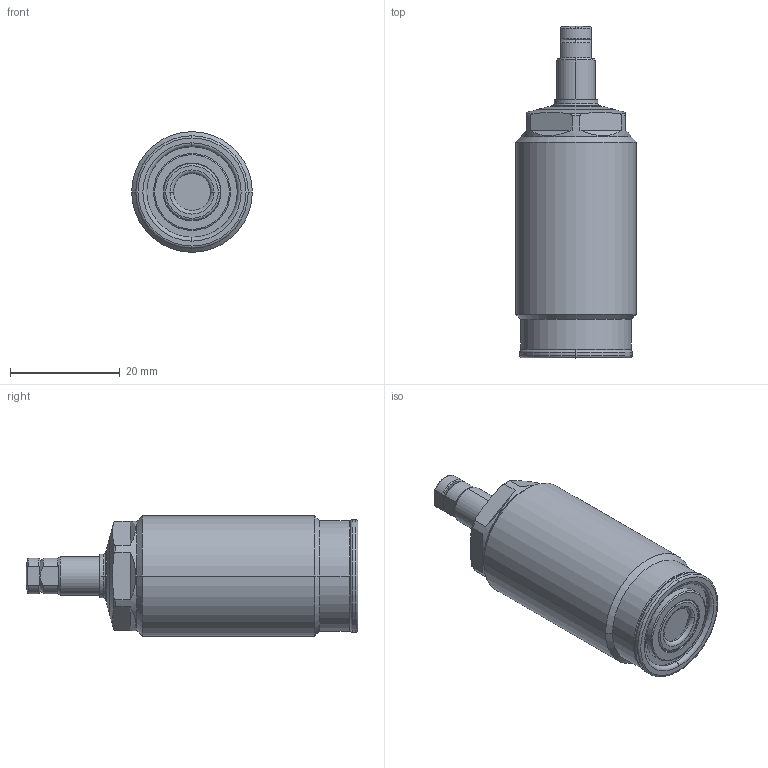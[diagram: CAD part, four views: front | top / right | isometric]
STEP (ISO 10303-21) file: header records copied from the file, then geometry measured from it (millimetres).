
FILE_DESCRIPTION(/* description */ (''),/* implementation_level */ '2;1');
FILE_NAME(/* name */ 'TNE22.stp',/* time_stamp */ '2022-11-17T13:37:34+08:00',/* author */ (''),/* organization */ (''),/* preprocessor_version */ 'ST-DEVELOPER v16.7',/* originating_system */ 'SIEMENS PLM Software NX 12.0',/* authorisation */ '');
FILE_SCHEMA (('AP203_CONFIGURATION_CONTROLLED_3D_DESIGN_OF_MECHANICAL_PARTS_AND_ASSEMBLIES_MIM_LF { 1 0 10303 403 2 1 2}'));
Length unit declared in the file: millimetre
Products named in the file (7): XLD-M4_contactbolt; XLD-M4_Oring; TNE22-04; TNE22-02; TNE22-01; TNE22-03; WNC0353-x-E_step
Assembly tree (6 placements, depth 3):
  WNC0353-x-E_step
    TNE22-01
    TNE22-02
    TNE22-04
    TNE22-03
      XLD-M4_Oring
      XLD-M4_contactbolt
Bounding box: 22 x 60.5 x 22 mm (x, y, z)
Volume: 16357.6 mm3; surface area: 4848.1 mm2
Topology: 5 solids, 5 shells, 153 faces, 337 edges, 203 vertices
Faces by surface type: torus 50, cylinder 43, plane 36, cone 22, sphere 2
Entity records: 5349 total; most frequent: CARTESIAN_POINT 1102, DIRECTION 819, ORIENTED_EDGE 674, AXIS2_PLACEMENT_3D 364, EDGE_CURVE 337, CIRCLE 204, VERTEX_POINT 203, EDGE_LOOP 168
